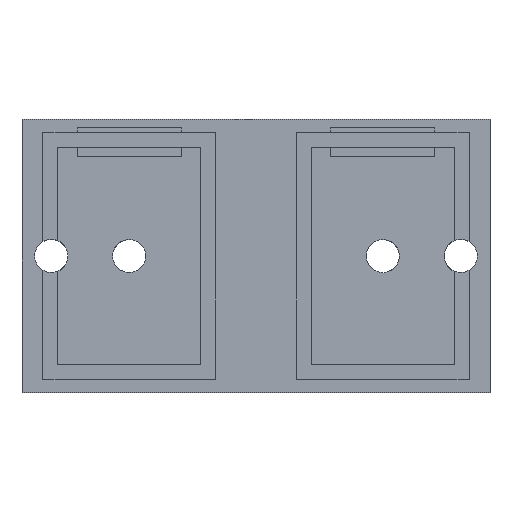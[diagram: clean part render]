
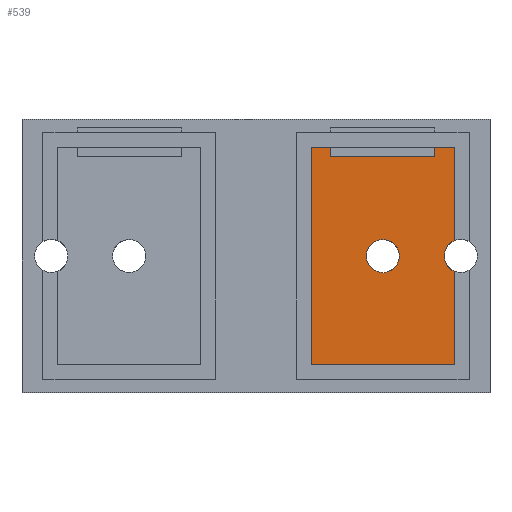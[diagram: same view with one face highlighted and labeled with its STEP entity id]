
A CAD part, top view. The second image highlights one B-rep face of the part: STEP entity #539.
In plain terms, the highlighted planar face has unit normal (0, 0, 1).
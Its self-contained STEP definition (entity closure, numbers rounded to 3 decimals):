
#143 = PLANE('',#144);
#144 = AXIS2_PLACEMENT_3D('',#145,#146,#147);
#145 = CARTESIAN_POINT('',(5.65,11.16,1.));
#146 = DIRECTION('',(0.,1.,0.));
#147 = DIRECTION('',(0.,0.,1.));
#232 = VERTEX_POINT('',#233);
#233 = CARTESIAN_POINT('',(20.35,11.16,1.));
#249 = PLANE('',#250);
#250 = AXIS2_PLACEMENT_3D('',#251,#252,#253);
#251 = CARTESIAN_POINT('',(20.35,-11.16,1.));
#252 = DIRECTION('',(1.,0.,0.));
#253 = DIRECTION('',(0.,0.,1.));
#261 = EDGE_CURVE('',#262,#232,#264,.T.);
#262 = VERTEX_POINT('',#263);
#263 = CARTESIAN_POINT('',(5.65,11.16,1.));
#264 = SURFACE_CURVE('',#265,(#269,#276),.PCURVE_S1.);
#265 = LINE('',#266,#267);
#266 = CARTESIAN_POINT('',(5.65,11.16,1.));
#267 = VECTOR('',#268,1.);
#268 = DIRECTION('',(1.,0.,0.));
#269 = PCURVE('',#143,#270);
#270 = DEFINITIONAL_REPRESENTATION('',(#271),#275);
#271 = LINE('',#272,#273);
#272 = CARTESIAN_POINT('',(0.,0.));
#273 = VECTOR('',#274,1.);
#274 = DIRECTION('',(0.,1.));
#275 = ( GEOMETRIC_REPRESENTATION_CONTEXT(2) 
PARAMETRIC_REPRESENTATION_CONTEXT() REPRESENTATION_CONTEXT('2D SPACE',''
  ) );
#276 = PCURVE('',#277,#282);
#277 = PLANE('',#278);
#278 = AXIS2_PLACEMENT_3D('',#279,#280,#281);
#279 = CARTESIAN_POINT('',(5.65,-11.16,1.));
#280 = DIRECTION('',(0.,0.,1.));
#281 = DIRECTION('',(1.,0.,0.));
#282 = DEFINITIONAL_REPRESENTATION('',(#283),#287);
#283 = LINE('',#284,#285);
#284 = CARTESIAN_POINT('',(0.,22.32));
#285 = VECTOR('',#286,1.);
#286 = DIRECTION('',(1.,0.));
#287 = ( GEOMETRIC_REPRESENTATION_CONTEXT(2) 
PARAMETRIC_REPRESENTATION_CONTEXT() REPRESENTATION_CONTEXT('2D SPACE',''
  ) );
#305 = PLANE('',#306);
#306 = AXIS2_PLACEMENT_3D('',#307,#308,#309);
#307 = CARTESIAN_POINT('',(5.65,-11.16,1.));
#308 = DIRECTION('',(1.,0.,0.));
#309 = DIRECTION('',(0.,0.,1.));
#472 = VERTEX_POINT('',#473);
#473 = CARTESIAN_POINT('',(20.35,1.571,1.));
#488 = CYLINDRICAL_SURFACE('',#489,1.7);
#489 = AXIS2_PLACEMENT_3D('',#490,#491,#492);
#490 = CARTESIAN_POINT('',(21.,0.,-2.));
#491 = DIRECTION('',(0.,0.,1.));
#492 = DIRECTION('',(1.,0.,0.));
#499 = EDGE_CURVE('',#472,#232,#500,.T.);
#500 = SURFACE_CURVE('',#501,(#505,#512),.PCURVE_S1.);
#501 = LINE('',#502,#503);
#502 = CARTESIAN_POINT('',(20.35,-11.16,1.));
#503 = VECTOR('',#504,1.);
#504 = DIRECTION('',(0.,1.,0.));
#505 = PCURVE('',#249,#506);
#506 = DEFINITIONAL_REPRESENTATION('',(#507),#511);
#507 = LINE('',#508,#509);
#508 = CARTESIAN_POINT('',(0.,0.));
#509 = VECTOR('',#510,1.);
#510 = DIRECTION('',(0.,-1.));
#511 = ( GEOMETRIC_REPRESENTATION_CONTEXT(2) 
PARAMETRIC_REPRESENTATION_CONTEXT() REPRESENTATION_CONTEXT('2D SPACE',''
  ) );
#512 = PCURVE('',#277,#513);
#513 = DEFINITIONAL_REPRESENTATION('',(#514),#518);
#514 = LINE('',#515,#516);
#515 = CARTESIAN_POINT('',(14.7,0.));
#516 = VECTOR('',#517,1.);
#517 = DIRECTION('',(0.,1.));
#518 = ( GEOMETRIC_REPRESENTATION_CONTEXT(2) 
PARAMETRIC_REPRESENTATION_CONTEXT() REPRESENTATION_CONTEXT('2D SPACE',''
  ) );
#539 = ADVANCED_FACE('',(#540,#645),#277,.T.);
#540 = FACE_BOUND('',#541,.T.);
#541 = EDGE_LOOP('',(#542,#543,#566,#594,#622,#644));
#542 = ORIENTED_EDGE('',*,*,#261,.F.);
#543 = ORIENTED_EDGE('',*,*,#544,.F.);
#544 = EDGE_CURVE('',#545,#262,#547,.T.);
#545 = VERTEX_POINT('',#546);
#546 = CARTESIAN_POINT('',(5.65,-11.16,1.));
#547 = SURFACE_CURVE('',#548,(#552,#559),.PCURVE_S1.);
#548 = LINE('',#549,#550);
#549 = CARTESIAN_POINT('',(5.65,-11.16,1.));
#550 = VECTOR('',#551,1.);
#551 = DIRECTION('',(0.,1.,0.));
#552 = PCURVE('',#277,#553);
#553 = DEFINITIONAL_REPRESENTATION('',(#554),#558);
#554 = LINE('',#555,#556);
#555 = CARTESIAN_POINT('',(0.,0.));
#556 = VECTOR('',#557,1.);
#557 = DIRECTION('',(0.,1.));
#558 = ( GEOMETRIC_REPRESENTATION_CONTEXT(2) 
PARAMETRIC_REPRESENTATION_CONTEXT() REPRESENTATION_CONTEXT('2D SPACE',''
  ) );
#559 = PCURVE('',#305,#560);
#560 = DEFINITIONAL_REPRESENTATION('',(#561),#565);
#561 = LINE('',#562,#563);
#562 = CARTESIAN_POINT('',(0.,0.));
#563 = VECTOR('',#564,1.);
#564 = DIRECTION('',(0.,-1.));
#565 = ( GEOMETRIC_REPRESENTATION_CONTEXT(2) 
PARAMETRIC_REPRESENTATION_CONTEXT() REPRESENTATION_CONTEXT('2D SPACE',''
  ) );
#566 = ORIENTED_EDGE('',*,*,#567,.T.);
#567 = EDGE_CURVE('',#545,#568,#570,.T.);
#568 = VERTEX_POINT('',#569);
#569 = CARTESIAN_POINT('',(20.35,-11.16,1.));
#570 = SURFACE_CURVE('',#571,(#575,#582),.PCURVE_S1.);
#571 = LINE('',#572,#573);
#572 = CARTESIAN_POINT('',(5.65,-11.16,1.));
#573 = VECTOR('',#574,1.);
#574 = DIRECTION('',(1.,0.,0.));
#575 = PCURVE('',#277,#576);
#576 = DEFINITIONAL_REPRESENTATION('',(#577),#581);
#577 = LINE('',#578,#579);
#578 = CARTESIAN_POINT('',(0.,0.));
#579 = VECTOR('',#580,1.);
#580 = DIRECTION('',(1.,0.));
#581 = ( GEOMETRIC_REPRESENTATION_CONTEXT(2) 
PARAMETRIC_REPRESENTATION_CONTEXT() REPRESENTATION_CONTEXT('2D SPACE',''
  ) );
#582 = PCURVE('',#583,#588);
#583 = PLANE('',#584);
#584 = AXIS2_PLACEMENT_3D('',#585,#586,#587);
#585 = CARTESIAN_POINT('',(5.65,-11.16,1.));
#586 = DIRECTION('',(0.,1.,0.));
#587 = DIRECTION('',(0.,0.,1.));
#588 = DEFINITIONAL_REPRESENTATION('',(#589),#593);
#589 = LINE('',#590,#591);
#590 = CARTESIAN_POINT('',(0.,0.));
#591 = VECTOR('',#592,1.);
#592 = DIRECTION('',(0.,1.));
#593 = ( GEOMETRIC_REPRESENTATION_CONTEXT(2) 
PARAMETRIC_REPRESENTATION_CONTEXT() REPRESENTATION_CONTEXT('2D SPACE',''
  ) );
#594 = ORIENTED_EDGE('',*,*,#595,.T.);
#595 = EDGE_CURVE('',#568,#596,#598,.T.);
#596 = VERTEX_POINT('',#597);
#597 = CARTESIAN_POINT('',(20.35,-1.571,1.));
#598 = SURFACE_CURVE('',#599,(#603,#610),.PCURVE_S1.);
#599 = LINE('',#600,#601);
#600 = CARTESIAN_POINT('',(20.35,-11.16,1.));
#601 = VECTOR('',#602,1.);
#602 = DIRECTION('',(0.,1.,0.));
#603 = PCURVE('',#277,#604);
#604 = DEFINITIONAL_REPRESENTATION('',(#605),#609);
#605 = LINE('',#606,#607);
#606 = CARTESIAN_POINT('',(14.7,0.));
#607 = VECTOR('',#608,1.);
#608 = DIRECTION('',(0.,1.));
#609 = ( GEOMETRIC_REPRESENTATION_CONTEXT(2) 
PARAMETRIC_REPRESENTATION_CONTEXT() REPRESENTATION_CONTEXT('2D SPACE',''
  ) );
#610 = PCURVE('',#611,#616);
#611 = PLANE('',#612);
#612 = AXIS2_PLACEMENT_3D('',#613,#614,#615);
#613 = CARTESIAN_POINT('',(20.35,-11.16,1.));
#614 = DIRECTION('',(1.,0.,0.));
#615 = DIRECTION('',(0.,0.,1.));
#616 = DEFINITIONAL_REPRESENTATION('',(#617),#621);
#617 = LINE('',#618,#619);
#618 = CARTESIAN_POINT('',(0.,0.));
#619 = VECTOR('',#620,1.);
#620 = DIRECTION('',(0.,-1.));
#621 = ( GEOMETRIC_REPRESENTATION_CONTEXT(2) 
PARAMETRIC_REPRESENTATION_CONTEXT() REPRESENTATION_CONTEXT('2D SPACE',''
  ) );
#622 = ORIENTED_EDGE('',*,*,#623,.F.);
#623 = EDGE_CURVE('',#472,#596,#624,.T.);
#624 = SURFACE_CURVE('',#625,(#630,#637),.PCURVE_S1.);
#625 = CIRCLE('',#626,1.7);
#626 = AXIS2_PLACEMENT_3D('',#627,#628,#629);
#627 = CARTESIAN_POINT('',(21.,0.,1.));
#628 = DIRECTION('',(0.,0.,1.));
#629 = DIRECTION('',(1.,0.,-0.));
#630 = PCURVE('',#277,#631);
#631 = DEFINITIONAL_REPRESENTATION('',(#632),#636);
#632 = CIRCLE('',#633,1.7);
#633 = AXIS2_PLACEMENT_2D('',#634,#635);
#634 = CARTESIAN_POINT('',(15.35,11.16));
#635 = DIRECTION('',(1.,0.));
#636 = ( GEOMETRIC_REPRESENTATION_CONTEXT(2) 
PARAMETRIC_REPRESENTATION_CONTEXT() REPRESENTATION_CONTEXT('2D SPACE',''
  ) );
#637 = PCURVE('',#488,#638);
#638 = DEFINITIONAL_REPRESENTATION('',(#639),#643);
#639 = LINE('',#640,#641);
#640 = CARTESIAN_POINT('',(0.,3.));
#641 = VECTOR('',#642,1.);
#642 = DIRECTION('',(1.,0.));
#643 = ( GEOMETRIC_REPRESENTATION_CONTEXT(2) 
PARAMETRIC_REPRESENTATION_CONTEXT() REPRESENTATION_CONTEXT('2D SPACE',''
  ) );
#644 = ORIENTED_EDGE('',*,*,#499,.T.);
#645 = FACE_BOUND('',#646,.T.);
#646 = EDGE_LOOP('',(#647));
#647 = ORIENTED_EDGE('',*,*,#648,.F.);
#648 = EDGE_CURVE('',#649,#649,#651,.T.);
#649 = VERTEX_POINT('',#650);
#650 = CARTESIAN_POINT('',(14.7,0.,1.));
#651 = SURFACE_CURVE('',#652,(#657,#664),.PCURVE_S1.);
#652 = CIRCLE('',#653,1.7);
#653 = AXIS2_PLACEMENT_3D('',#654,#655,#656);
#654 = CARTESIAN_POINT('',(13.,0.,1.));
#655 = DIRECTION('',(0.,0.,1.));
#656 = DIRECTION('',(1.,0.,-0.));
#657 = PCURVE('',#277,#658);
#658 = DEFINITIONAL_REPRESENTATION('',(#659),#663);
#659 = CIRCLE('',#660,1.7);
#660 = AXIS2_PLACEMENT_2D('',#661,#662);
#661 = CARTESIAN_POINT('',(7.35,11.16));
#662 = DIRECTION('',(1.,0.));
#663 = ( GEOMETRIC_REPRESENTATION_CONTEXT(2) 
PARAMETRIC_REPRESENTATION_CONTEXT() REPRESENTATION_CONTEXT('2D SPACE',''
  ) );
#664 = PCURVE('',#665,#670);
#665 = CYLINDRICAL_SURFACE('',#666,1.7);
#666 = AXIS2_PLACEMENT_3D('',#667,#668,#669);
#667 = CARTESIAN_POINT('',(13.,0.,-2.));
#668 = DIRECTION('',(0.,0.,1.));
#669 = DIRECTION('',(1.,0.,0.));
#670 = DEFINITIONAL_REPRESENTATION('',(#671),#675);
#671 = LINE('',#672,#673);
#672 = CARTESIAN_POINT('',(0.,3.));
#673 = VECTOR('',#674,1.);
#674 = DIRECTION('',(1.,0.));
#675 = ( GEOMETRIC_REPRESENTATION_CONTEXT(2) 
PARAMETRIC_REPRESENTATION_CONTEXT() REPRESENTATION_CONTEXT('2D SPACE',''
  ) );
